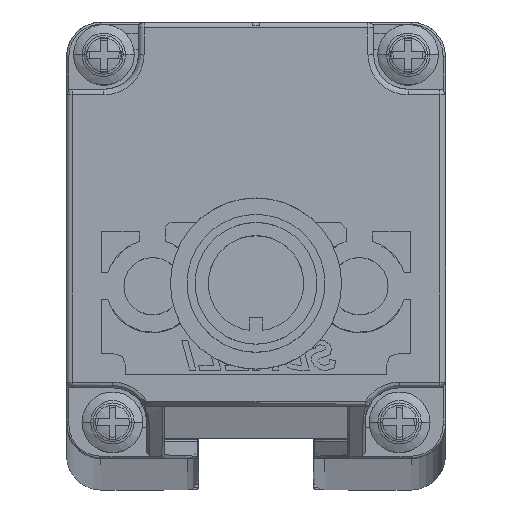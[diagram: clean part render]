
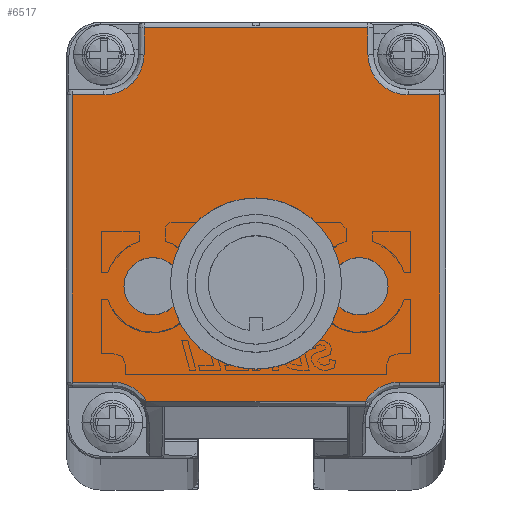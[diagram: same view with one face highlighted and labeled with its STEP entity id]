
A CAD part, top view. The second image highlights one B-rep face of the part: STEP entity #6517.
In plain terms, the highlighted planar face has unit normal (0, 0, 1).
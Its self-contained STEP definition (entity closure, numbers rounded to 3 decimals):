
#2629=CARTESIAN_POINT('',(0.65,-8.054,
1445.276));
#2630=DIRECTION('',(0.,0.,1.));
#2631=DIRECTION('',(1.,0.,0.));
#2632=AXIS2_PLACEMENT_3D('',#2629,#2630,#2631);
#2634=CARTESIAN_POINT('',(0.65,-8.054,
1445.276));
#2635=DIRECTION('',(0.,0.,1.));
#2636=DIRECTION('',(-1.,0.,0.));
#2637=AXIS2_PLACEMENT_3D('',#2634,#2635,#2636);
#2639=CARTESIAN_POINT('',(9.65,-8.055,1445.276));
#2640=DIRECTION('',(0.,0.,1.));
#2641=DIRECTION('',(1.,-0.007,0.));
#2642=AXIS2_PLACEMENT_3D('',#2639,#2640,#2641);
#2644=CARTESIAN_POINT('',(9.65,-8.055,1445.276));
#2645=DIRECTION('',(0.,0.,1.));
#2646=DIRECTION('',(-1.,0.007,0.));
#2647=AXIS2_PLACEMENT_3D('',#2644,#2645,#2646);
#2649=CARTESIAN_POINT('',(-8.35,-8.054,
1445.276));
#2650=DIRECTION('',(0.,0.,1.));
#2651=DIRECTION('',(1.,0.007,0.));
#2652=AXIS2_PLACEMENT_3D('',#2649,#2650,#2651);
#2654=CARTESIAN_POINT('',(-8.35,-8.054,
1445.276));
#2655=DIRECTION('',(0.,0.,1.));
#2656=DIRECTION('',(-1.,-0.007,0.));
#2657=AXIS2_PLACEMENT_3D('',#2654,#2655,#2656);
#2659=CARTESIAN_POINT('',(-11.85,-19.904,
1445.276));
#2660=DIRECTION('',(0.,0.,1.));
#2661=DIRECTION('',(0.849,0.528,0.));
#2662=AXIS2_PLACEMENT_3D('',#2659,#2660,#2661);
#2664=CARTESIAN_POINT('',(-12.6,12.094,1445.276));
#2665=DIRECTION('',(0.,0.,1.));
#2666=DIRECTION('',(0.,-1.,0.));
#2667=AXIS2_PLACEMENT_3D('',#2664,#2665,#2666);
#2669=CARTESIAN_POINT('',(13.9,12.094,1445.276));
#2670=DIRECTION('',(0.,0.,1.));
#2671=DIRECTION('',(-1.,0.,0.));
#2672=AXIS2_PLACEMENT_3D('',#2669,#2670,#2671);
#2674=CARTESIAN_POINT('',(13.15,-19.904,1445.276));
#2675=DIRECTION('',(0.,0.,1.));
#2676=DIRECTION('',(0.,1.,0.));
#2677=AXIS2_PLACEMENT_3D('',#2674,#2675,#2676);
#4206=DIRECTION('',(1.,0.,0.));
#4207=VECTOR('',#4206,19.056);
#4208=CARTESIAN_POINT('',(-8.878,-18.056,
1445.276));
#4209=LINE('',#4208,#4207);
#4779=DIRECTION('',(0.,1.,0.));
#4780=VECTOR('',#4779,2.35);
#4781=CARTESIAN_POINT('',(10.4,12.094,1445.276));
#4782=LINE('',#4781,#4780);
#4802=DIRECTION('',(-1.,0.,0.));
#4803=VECTOR('',#4802,19.5);
#4804=CARTESIAN_POINT('',(10.4,14.444,1445.276));
#4805=LINE('',#4804,#4803);
#4826=DIRECTION('',(0.,-1.,0.));
#4827=VECTOR('',#4826,2.35);
#4828=CARTESIAN_POINT('',(-9.1,14.444,1445.276));
#4829=LINE('',#4828,#4827);
#4853=DIRECTION('',(-1.,0.,0.));
#4854=VECTOR('',#4853,2.75);
#4855=CARTESIAN_POINT('',(-12.6,8.594,1445.276));
#4856=LINE('',#4855,#4854);
#4884=DIRECTION('',(0.,-1.,0.));
#4885=VECTOR('',#4884,24.998);
#4886=CARTESIAN_POINT('',(-15.35,8.594,1445.276));
#4887=LINE('',#4886,#4885);
#4908=DIRECTION('',(1.,0.,0.));
#4909=VECTOR('',#4908,3.5);
#4910=CARTESIAN_POINT('',(-15.35,-16.404,
1445.276));
#4911=LINE('',#4910,#4909);
#4972=DIRECTION('',(-1.,0.,0.));
#4973=VECTOR('',#4972,2.75);
#4974=CARTESIAN_POINT('',(16.65,8.594,1445.276));
#4975=LINE('',#4974,#4973);
#5205=DIRECTION('',(1.,0.,0.));
#5206=VECTOR('',#5205,3.5);
#5207=CARTESIAN_POINT('',(13.15,-16.404,1445.276));
#5208=LINE('',#5207,#5206);
#5236=DIRECTION('',(0.,1.,0.));
#5237=VECTOR('',#5236,24.998);
#5238=CARTESIAN_POINT('',(16.65,-16.404,1445.276));
#5239=LINE('',#5238,#5237);
#5643=CARTESIAN_POINT('',(12.15,-8.072,1445.276));
#5644=VERTEX_POINT('',#5643);
#5645=CARTESIAN_POINT('',(7.15,-8.039,1445.276));
#5646=VERTEX_POINT('',#5645);
#5647=CARTESIAN_POINT('',(-8.878,-18.056,
1445.276));
#5648=CARTESIAN_POINT('',(-11.85,-16.404,
1445.276));
#5649=VERTEX_POINT('',#5647);
#5650=VERTEX_POINT('',#5648);
#5651=CARTESIAN_POINT('',(-15.35,-16.404,
1445.276));
#5652=VERTEX_POINT('',#5651);
#5653=CARTESIAN_POINT('',(-15.35,8.594,1445.276));
#5654=VERTEX_POINT('',#5653);
#5655=CARTESIAN_POINT('',(-12.6,8.594,1445.276));
#5656=VERTEX_POINT('',#5655);
#5657=CARTESIAN_POINT('',(-9.1,12.094,1445.276));
#5658=VERTEX_POINT('',#5657);
#5659=CARTESIAN_POINT('',(-9.1,14.444,1445.276));
#5660=VERTEX_POINT('',#5659);
#5661=CARTESIAN_POINT('',(10.4,14.444,1445.276));
#5662=VERTEX_POINT('',#5661);
#5663=CARTESIAN_POINT('',(10.4,12.094,1445.276));
#5664=VERTEX_POINT('',#5663);
#5665=CARTESIAN_POINT('',(13.9,8.594,1445.276));
#5666=VERTEX_POINT('',#5665);
#5667=CARTESIAN_POINT('',(16.65,8.594,1445.276));
#5668=VERTEX_POINT('',#5667);
#5669=CARTESIAN_POINT('',(16.65,-16.404,1445.276));
#5670=VERTEX_POINT('',#5669);
#5671=CARTESIAN_POINT('',(13.15,-16.404,1445.276));
#5672=VERTEX_POINT('',#5671);
#5673=CARTESIAN_POINT('',(10.178,-18.056,1445.276));
#5674=VERTEX_POINT('',#5673);
#5675=CARTESIAN_POINT('',(-5.85,-8.037,
1445.276));
#5676=CARTESIAN_POINT('',(-10.85,-8.07,
1445.276));
#5677=VERTEX_POINT('',#5675);
#5678=VERTEX_POINT('',#5676);
#5679=CARTESIAN_POINT('',(3.65,-8.054,1445.276));
#5680=CARTESIAN_POINT('',(-2.35,-8.054,
1445.276));
#5681=VERTEX_POINT('',#5679);
#5682=VERTEX_POINT('',#5680);
#6466=CARTESIAN_POINT('',(0.65,0.944,
1445.276));
#6467=DIRECTION('',(0.,0.,1.));
#6468=DIRECTION('',(1.,0.,0.));
#6469=AXIS2_PLACEMENT_3D('',#6466,#6467,#6468);
#6470=PLANE('',#6469);
#6472=ORIENTED_EDGE('',*,*,#6471,.T.);
#6474=ORIENTED_EDGE('',*,*,#6473,.F.);
#6476=ORIENTED_EDGE('',*,*,#6475,.F.);
#6478=ORIENTED_EDGE('',*,*,#6477,.F.);
#6480=ORIENTED_EDGE('',*,*,#6479,.T.);
#6482=ORIENTED_EDGE('',*,*,#6481,.F.);
#6484=ORIENTED_EDGE('',*,*,#6483,.F.);
#6486=ORIENTED_EDGE('',*,*,#6485,.F.);
#6488=ORIENTED_EDGE('',*,*,#6487,.T.);
#6490=ORIENTED_EDGE('',*,*,#6489,.F.);
#6492=ORIENTED_EDGE('',*,*,#6491,.F.);
#6494=ORIENTED_EDGE('',*,*,#6493,.F.);
#6496=ORIENTED_EDGE('',*,*,#6495,.T.);
#6498=ORIENTED_EDGE('',*,*,#6497,.F.);
#6499=EDGE_LOOP('',(#6472,#6474,#6476,#6478,#6480,#6482,#6484,#6486,#6488,#6490,
#6492,#6494,#6496,#6498));
#6500=FACE_OUTER_BOUND('',#6499,.F.);
#6501=ORIENTED_EDGE('',*,*,#6453,.T.);
#6502=ORIENTED_EDGE('',*,*,#6414,.T.);
#6503=EDGE_LOOP('',(#6501,#6502));
#6504=FACE_BOUND('',#6503,.F.);
#6506=ORIENTED_EDGE('',*,*,#6505,.T.);
#6508=ORIENTED_EDGE('',*,*,#6507,.T.);
#6509=EDGE_LOOP('',(#6506,#6508));
#6510=FACE_BOUND('',#6509,.F.);
#6512=ORIENTED_EDGE('',*,*,#6511,.T.);
#6514=ORIENTED_EDGE('',*,*,#6513,.T.);
#6515=EDGE_LOOP('',(#6512,#6514));
#6516=FACE_BOUND('',#6515,.F.);
#2633=CIRCLE('',#2632,3.);
#2638=CIRCLE('',#2637,3.);
#2643=CIRCLE('',#2642,2.5);
#2648=CIRCLE('',#2647,2.5);
#2653=CIRCLE('',#2652,2.5);
#2658=CIRCLE('',#2657,2.5);
#2663=CIRCLE('',#2662,3.5);
#2668=CIRCLE('',#2667,3.5);
#2673=CIRCLE('',#2672,3.5);
#2678=CIRCLE('',#2677,3.5);
#6414=EDGE_CURVE('',#5646,#5644,#2648,.T.);
#6453=EDGE_CURVE('',#5644,#5646,#2643,.T.);
#6471=EDGE_CURVE('',#5649,#5650,#2663,.T.);
#6473=EDGE_CURVE('',#5652,#5650,#4911,.T.);
#6475=EDGE_CURVE('',#5654,#5652,#4887,.T.);
#6477=EDGE_CURVE('',#5656,#5654,#4856,.T.);
#6479=EDGE_CURVE('',#5656,#5658,#2668,.T.);
#6481=EDGE_CURVE('',#5660,#5658,#4829,.T.);
#6483=EDGE_CURVE('',#5662,#5660,#4805,.T.);
#6485=EDGE_CURVE('',#5664,#5662,#4782,.T.);
#6487=EDGE_CURVE('',#5664,#5666,#2673,.T.);
#6489=EDGE_CURVE('',#5668,#5666,#4975,.T.);
#6491=EDGE_CURVE('',#5670,#5668,#5239,.T.);
#6493=EDGE_CURVE('',#5672,#5670,#5208,.T.);
#6495=EDGE_CURVE('',#5672,#5674,#2678,.T.);
#6497=EDGE_CURVE('',#5649,#5674,#4209,.T.);
#6505=EDGE_CURVE('',#5677,#5678,#2653,.T.);
#6507=EDGE_CURVE('',#5678,#5677,#2658,.T.);
#6511=EDGE_CURVE('',#5681,#5682,#2633,.T.);
#6513=EDGE_CURVE('',#5682,#5681,#2638,.T.);
#6517=ADVANCED_FACE('',(#6500,#6504,#6510,#6516),#6470,.T.);
